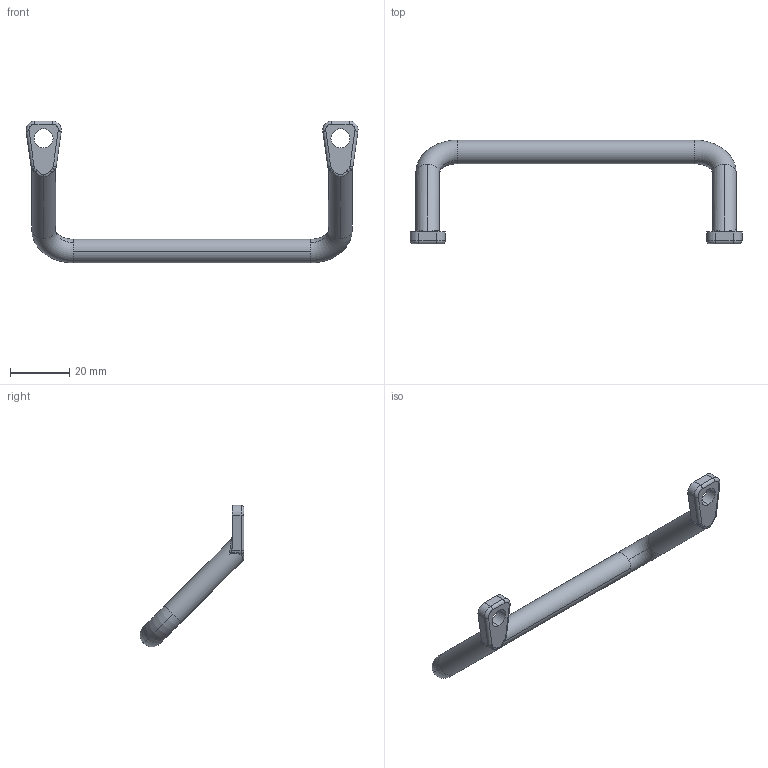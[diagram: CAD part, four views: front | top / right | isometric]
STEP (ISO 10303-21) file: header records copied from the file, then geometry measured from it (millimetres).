
FILE_DESCRIPTION (( 'STEP AP203' ), '1' );
FILE_NAME ('E18-531010.STEP', '2024-10-29T07:53:21', ( '' ), ( '' ), 'SwSTEP 2.0', 'SolidWorks 2021', '' );
FILE_SCHEMA (( 'CONFIG_CONTROL_DESIGN' ));
Length unit declared in the file: millimetre
Products named in the file (1): E18-531010
Bounding box: 111.89 x 35.04 x 47.78 mm (x, y, z)
Volume: 9678.9 mm3; surface area: 5283.5 mm2
Topology: 1 solids, 1 shells, 60 faces, 152 edges, 94 vertices
Faces by surface type: cylinder 24, bspline 14, torus 12, plane 10
Entity records: 2397 total; most frequent: CARTESIAN_POINT 963, ORIENTED_EDGE 304, DIRECTION 274, EDGE_CURVE 152, AXIS2_PLACEMENT_3D 117, VERTEX_POINT 94, CIRCLE 70, EDGE_LOOP 64
